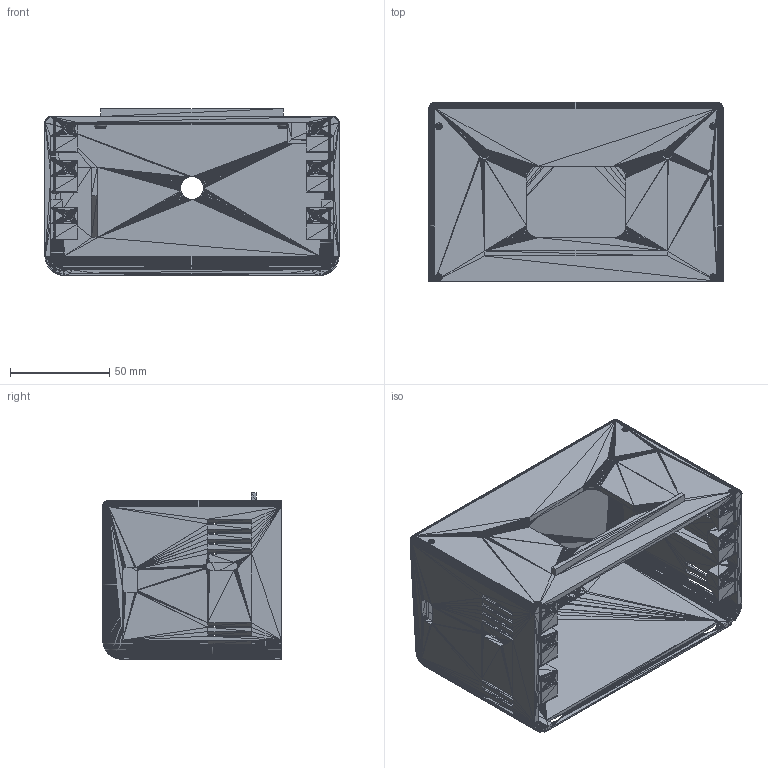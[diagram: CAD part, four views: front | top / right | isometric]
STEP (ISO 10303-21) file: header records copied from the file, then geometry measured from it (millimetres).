
FILE_DESCRIPTION(('BEAREE body - faceted solid, tessellated from the OpenSCAD model'),'2;1');
FILE_NAME('body.step','2026-08-05T18:55:26',('BEAREE'),(''),'tools/step_gen.js','OpenSCAD 2021.01','');
FILE_SCHEMA(('AUTOMOTIVE_DESIGN { 1 0 10303 214 1 1 1 1 }'));
Products named in the file (1): body
Bounding box: 148 x 90 x 83.99 mm (x, y, z)
Volume: 151750 mm3; surface area: 106867.2 mm2
Topology: 1 solids, 1 shells, 33530 faces, 50295 edges, 16707 vertices
Faces by surface type: plane 33530
Entity records: 569912 total; most frequent: DIRECTION 117357, ORIENTED_EDGE 100590, VECTOR 50295, LINE 50295, EDGE_CURVE 50295, AXIS2_PLACEMENT_3D 33531, EDGE_LOOP 33530, FACE_OUTER_BOUND 33530
